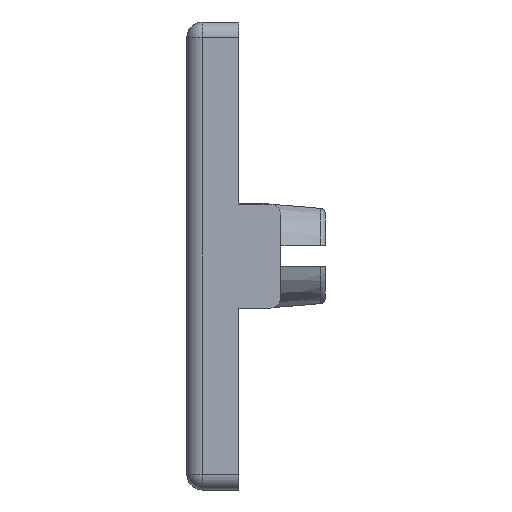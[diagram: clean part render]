
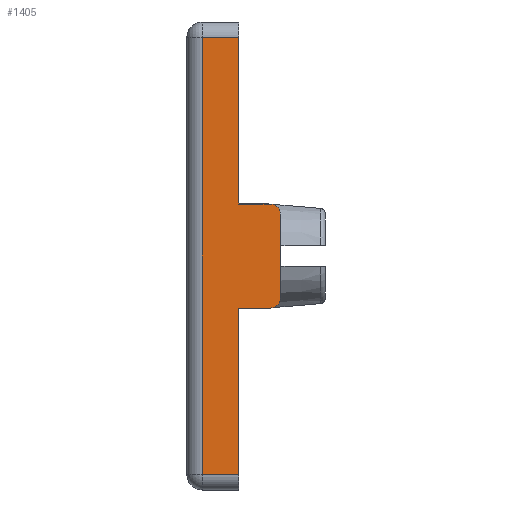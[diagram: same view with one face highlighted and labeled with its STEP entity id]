
A CAD part, left-side view. The second image highlights one B-rep face of the part: STEP entity #1405.
In plain terms, the highlighted planar face has unit normal (-1, 0, 0).
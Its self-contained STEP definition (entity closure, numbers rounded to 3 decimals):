
#9 = CARTESIAN_POINT ( 'NONE',  ( -45., -4., -4. ) ) ;
#20 = FACE_OUTER_BOUND ( 'NONE', #156, .T. ) ;
#24 = LINE ( 'NONE', #1115, #2557 ) ;
#70 = CARTESIAN_POINT ( 'NONE',  ( -45., 0., -21. ) ) ;
#97 = CARTESIAN_POINT ( 'NONE',  ( -45., 0., -22.5 ) ) ;
#99 = VERTEX_POINT ( 'NONE', #1949 ) ;
#156 = EDGE_LOOP ( 'NONE', ( #429, #2332, #1474, #1240, #529, #994, #568, #1023, #357, #530 ) ) ;
#165 = EDGE_CURVE ( 'NONE', #1528, #2605, #934, .T. ) ;
#174 = EDGE_CURVE ( 'NONE', #2605, #816, #2520, .T. ) ;
#223 = CARTESIAN_POINT ( 'NONE',  ( -45., 3.5, -22.5 ) ) ;
#232 = VERTEX_POINT ( 'NONE', #9 ) ;
#314 = VERTEX_POINT ( 'NONE', #874 ) ;
#315 = DIRECTION ( 'NONE',  ( 0., 0., -1. ) ) ;
#337 = VECTOR ( 'NONE', #2355, 1000. ) ;
#348 = EDGE_CURVE ( 'NONE', #1723, #232, #24, .T. ) ;
#357 = ORIENTED_EDGE ( 'NONE', *, *, #1861, .F. ) ;
#359 = VERTEX_POINT ( 'NONE', #518 ) ;
#405 = CARTESIAN_POINT ( 'NONE',  ( -45., -4., 4. ) ) ;
#429 = ORIENTED_EDGE ( 'NONE', *, *, #348, .F. ) ;
#436 = DIRECTION ( 'NONE',  ( 0., 0., -1. ) ) ;
#468 = EDGE_CURVE ( 'NONE', #554, #99, #2319, .T. ) ;
#518 = CARTESIAN_POINT ( 'NONE',  ( -45., 3.5, 21. ) ) ;
#529 = ORIENTED_EDGE ( 'NONE', *, *, #2473, .T. ) ;
#530 = ORIENTED_EDGE ( 'NONE', *, *, #2482, .T. ) ;
#554 = VERTEX_POINT ( 'NONE', #70 ) ;
#568 = ORIENTED_EDGE ( 'NONE', *, *, #1087, .T. ) ;
#680 = CARTESIAN_POINT ( 'NONE',  ( -45., 0., -22.5 ) ) ;
#712 = CARTESIAN_POINT ( 'NONE',  ( -45., -3., -4. ) ) ;
#735 = LINE ( 'NONE', #2502, #2385 ) ;
#756 = DIRECTION ( 'NONE',  ( 1., 0., 0. ) ) ;
#816 = VERTEX_POINT ( 'NONE', #2518 ) ;
#818 = CARTESIAN_POINT ( 'NONE',  ( -45., -3., 4. ) ) ;
#852 = LINE ( 'NONE', #1925, #337 ) ;
#874 = CARTESIAN_POINT ( 'NONE',  ( -45., -3., -5. ) ) ;
#891 = DIRECTION ( 'NONE',  ( 0., 0., 1. ) ) ;
#909 = DIRECTION ( 'NONE',  ( 0., 0., -1. ) ) ;
#934 = LINE ( 'NONE', #1341, #1950 ) ;
#949 = CARTESIAN_POINT ( 'NONE',  ( -45., 0., 5. ) ) ;
#962 = CARTESIAN_POINT ( 'NONE',  ( -45., 5., -22.5 ) ) ;
#994 = ORIENTED_EDGE ( 'NONE', *, *, #2167, .T. ) ;
#1023 = ORIENTED_EDGE ( 'NONE', *, *, #468, .T. ) ;
#1030 = DIRECTION ( 'NONE',  ( 0., 0., -1. ) ) ;
#1087 = EDGE_CURVE ( 'NONE', #2213, #554, #735, .T. ) ;
#1115 = CARTESIAN_POINT ( 'NONE',  ( -45., -4., 5. ) ) ;
#1174 = PLANE ( 'NONE',  #1937 ) ;
#1232 = VECTOR ( 'NONE', #2540, 1000. ) ;
#1237 = LINE ( 'NONE', #223, #1712 ) ;
#1240 = ORIENTED_EDGE ( 'NONE', *, *, #174, .T. ) ;
#1267 = DIRECTION ( 'NONE',  ( 0., -1., 0. ) ) ;
#1341 = CARTESIAN_POINT ( 'NONE',  ( -45., -4., 5. ) ) ;
#1357 = DIRECTION ( 'NONE',  ( 0., 0., -1. ) ) ;
#1372 = DIRECTION ( 'NONE',  ( 0., 1., 0. ) ) ;
#1405 = ADVANCED_FACE ( 'NONE', ( #20 ), #1174, .F. ) ;
#1474 = ORIENTED_EDGE ( 'NONE', *, *, #165, .T. ) ;
#1528 = VERTEX_POINT ( 'NONE', #1631 ) ;
#1553 = EDGE_CURVE ( 'NONE', #1723, #1528, #2486, .T. ) ;
#1631 = CARTESIAN_POINT ( 'NONE',  ( -45., -3., 5. ) ) ;
#1691 = AXIS2_PLACEMENT_3D ( 'NONE', #712, #2136, #909 ) ;
#1712 = VECTOR ( 'NONE', #436, 1000. ) ;
#1723 = VERTEX_POINT ( 'NONE', #405 ) ;
#1742 = VECTOR ( 'NONE', #1372, 1000. ) ;
#1851 = AXIS2_PLACEMENT_3D ( 'NONE', #818, #2262, #1030 ) ;
#1861 = EDGE_CURVE ( 'NONE', #314, #99, #2296, .T. ) ;
#1886 = CIRCLE ( 'NONE', #1691, 1. ) ;
#1914 = DIRECTION ( 'NONE',  ( 0., 1., 0. ) ) ;
#1925 = CARTESIAN_POINT ( 'NONE',  ( -45., 5., 21. ) ) ;
#1937 = AXIS2_PLACEMENT_3D ( 'NONE', #962, #756, #1357 ) ;
#1949 = CARTESIAN_POINT ( 'NONE',  ( -45., 0., -5. ) ) ;
#1950 = VECTOR ( 'NONE', #1914, 1000. ) ;
#2136 = DIRECTION ( 'NONE',  ( -1., 0., 0. ) ) ;
#2167 = EDGE_CURVE ( 'NONE', #359, #2213, #1237, .T. ) ;
#2213 = VERTEX_POINT ( 'NONE', #2278 ) ;
#2262 = DIRECTION ( 'NONE',  ( -1., 0., 0. ) ) ;
#2278 = CARTESIAN_POINT ( 'NONE',  ( -45., 3.5, -21. ) ) ;
#2296 = LINE ( 'NONE', #2626, #1742 ) ;
#2319 = LINE ( 'NONE', #680, #1232 ) ;
#2332 = ORIENTED_EDGE ( 'NONE', *, *, #1553, .T. ) ;
#2355 = DIRECTION ( 'NONE',  ( 0., 1., 0. ) ) ;
#2385 = VECTOR ( 'NONE', #1267, 1000. ) ;
#2465 = VECTOR ( 'NONE', #891, 1000. ) ;
#2473 = EDGE_CURVE ( 'NONE', #816, #359, #852, .T. ) ;
#2482 = EDGE_CURVE ( 'NONE', #314, #232, #1886, .T. ) ;
#2486 = CIRCLE ( 'NONE', #1851, 1. ) ;
#2502 = CARTESIAN_POINT ( 'NONE',  ( -45., 5., -21. ) ) ;
#2518 = CARTESIAN_POINT ( 'NONE',  ( -45., 0., 21. ) ) ;
#2520 = LINE ( 'NONE', #97, #2465 ) ;
#2540 = DIRECTION ( 'NONE',  ( 0., 0., 1. ) ) ;
#2557 = VECTOR ( 'NONE', #315, 1000. ) ;
#2605 = VERTEX_POINT ( 'NONE', #949 ) ;
#2626 = CARTESIAN_POINT ( 'NONE',  ( -45., -4., -5. ) ) ;
